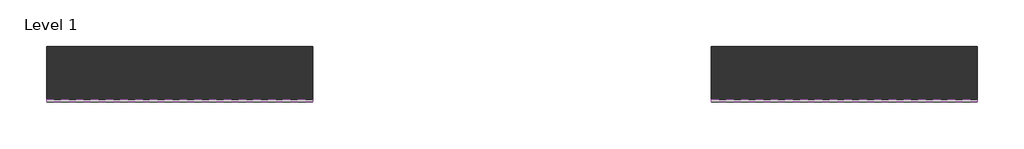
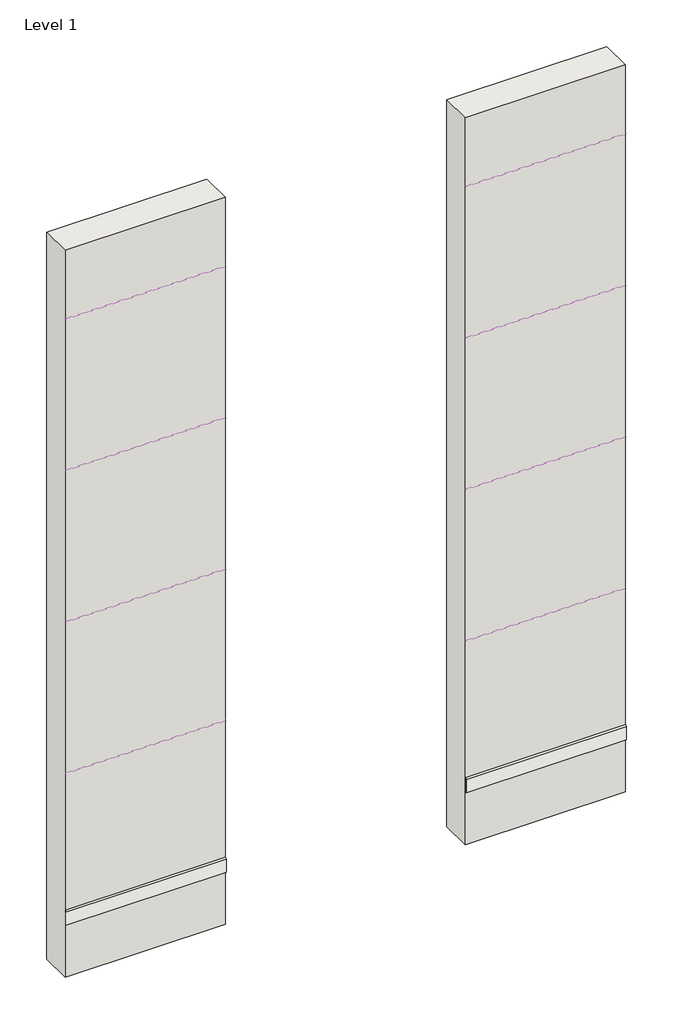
# One storey: 10 coverings, 2 walls.
"""IFC4 building model written with IfcOpenShell, lengths in millimetres."""

from ifc_helpers import new_model, si_unit, point, frame, frame_2d, origin, place, context, project, spatial, polyline, circle_curve, trimmed, segment, composite_curve, outline, extrude, element, save

model = new_model("IFC4")

# Units and contexts
model_context = context("Model", 3, world=origin())
ifc_project = project(units=[si_unit("LENGTHUNIT", "METRE", prefix="MILLI")], contexts=[model_context])

# Site, building, storey
site = spatial("IfcSite", under=ifc_project)
building = spatial("IfcBuilding", under=site)
storey = spatial("IfcBuildingStorey", under=building, Name="Level 1", Elevation=0.0)

# Coverings
placement = place(None, origin())
element("IfcCovering", 1, ObjectType="REVIGRES-CALACATTA CLASSIC-RB-8x59.2-POL-CLASSIC", at=placement, inside=storey, context=model_context, shape_type="SweptSolid", body=[
    extrude(outline(composite_curve([segment(polyline([(-9379.9346721, 3796.7424313), (-9389.7346721, 3796.7424313), (-9389.7346721, 3866.9424313)]), True, "CONTINUOUS"), segment(trimmed(circle_curve(frame_2d((-9379.9346721, 3866.9424313)), 9.8), [point((-9389.7346721, 3866.9424313))], [point((-9379.9346721, 3876.7424313))], False, "CARTESIAN"), True, "CONTINUOUS"), segment(polyline([(-9379.9346721, 3876.7424313), (-9379.9346721, 3796.7424313)]), True, "CONTINUOUS")], self_intersect=False)), frame((8824.7776244, 0.0, 0.0), z_axis=(1.0, 0.0, 0.0), x_axis=(0.0, 1.0, 0.0)), (0.0, 0.0, 1.0), 1000.0),
])
element("IfcCovering", 2, ObjectType="REVIGRES-CALACATTA CLASSIC-RB-8x88.9-POL-CLASSIC", at=placement, inside=storey, context=model_context, shape_type="SweptSolid", body=[
    extrude(outline(composite_curve([segment(polyline([(-9379.9346721, 2796.7424313), (-9390.4346721, 2796.7424313), (-9390.4346721, 2866.2424313)]), True, "CONTINUOUS"), segment(trimmed(circle_curve(frame_2d((-9379.9346721, 2866.2424313)), 10.5), [point((-9390.4346721, 2866.2424313))], [point((-9379.9346721, 2876.7424313))], False, "CARTESIAN"), True, "CONTINUOUS"), segment(polyline([(-9379.9346721, 2876.7424313), (-9379.9346721, 2796.7424313)]), True, "CONTINUOUS")], self_intersect=False)), frame((8824.7776244, 0.0, 0.0), z_axis=(1.0, 0.0, 0.0), x_axis=(0.0, 1.0, 0.0)), (0.0, 0.0, 1.0), 1000.0),
])
element("IfcCovering", 3, ObjectType="REVIGRES-CALACATTA CLASSIC-RB-8x118.6-POL-CLASSIC", at=placement, inside=storey, context=model_context, shape_type="SweptSolid", body=[
    extrude(outline(composite_curve([segment(polyline([(-9379.9346721, 1796.7424313), (-9389.7346721, 1796.7424313), (-9389.7346721, 1866.9424313)]), True, "CONTINUOUS"), segment(trimmed(circle_curve(frame_2d((-9379.9346721, 1866.9424313)), 9.8), [point((-9389.7346721, 1866.9424313))], [point((-9379.9346721, 1876.7424313))], False, "CARTESIAN"), True, "CONTINUOUS"), segment(polyline([(-9379.9346721, 1876.7424313), (-9379.9346721, 1796.7424313)]), True, "CONTINUOUS")], self_intersect=False)), frame((8824.7776244, 0.0, 0.0), z_axis=(1.0, 0.0, 0.0), x_axis=(0.0, 1.0, 0.0)), (0.0, 0.0, 1.0), 1000.0),
])
element("IfcCovering", 4, ObjectType="REVIGRES-CALACATTA CLASSIC-RB-9.5x29.5-POL-CLASSIC", at=placement, inside=storey, context=model_context, shape_type="SweptSolid", body=[
    extrude(outline(composite_curve([segment(polyline([(-9379.9346721, 796.7424313), (-9389.7346721, 796.7424313), (-9389.7346721, 881.9424313)]), True, "CONTINUOUS"), segment(trimmed(circle_curve(frame_2d((-9379.9346721, 881.9424313)), 9.8), [point((-9389.7346721, 881.9424313))], [point((-9379.9346721, 891.7424313))], False, "CARTESIAN"), True, "CONTINUOUS"), segment(polyline([(-9379.9346721, 891.7424313), (-9379.9346721, 796.7424313)]), True, "CONTINUOUS")], self_intersect=False)), frame((8824.7776244, 0.0, 0.0), z_axis=(1.0, 0.0, 0.0), x_axis=(0.0, 1.0, 0.0)), (0.0, 0.0, 1.0), 1000.0),
])
element("IfcCovering", 5, ObjectType="REVIGRES-CALACATTA CLASSIC-RB-8x59.2-MATTRECT-CLASSIC", at=placement, inside=storey, context=model_context, shape_type="SweptSolid", body=[
    extrude(outline(composite_curve([segment(polyline([(-9379.9346721, 3796.7424313), (-9389.7346721, 3796.7424313), (-9389.7346721, 3866.9424313)]), True, "CONTINUOUS"), segment(trimmed(circle_curve(frame_2d((-9379.9346721, 3866.9424313)), 9.8), [point((-9389.7346721, 3866.9424313))], [point((-9379.9346721, 3876.7424313))], False, "CARTESIAN"), True, "CONTINUOUS"), segment(polyline([(-9379.9346721, 3876.7424313), (-9379.9346721, 3796.7424313)]), True, "CONTINUOUS")], self_intersect=False)), frame((11324.7776244, 0.0, 0.0), z_axis=(1.0, 0.0, 0.0), x_axis=(0.0, 1.0, 0.0)), (0.0, 0.0, 1.0), 1000.0),
])
element("IfcCovering", 6, ObjectType="REVIGRES-CALACATTA CLASSIC-RB-8x88.9-MATTRECT-CLASSIC", at=placement, inside=storey, context=model_context, shape_type="SweptSolid", body=[
    extrude(outline(composite_curve([segment(polyline([(-9379.9346721, 2796.7424313), (-9390.4346721, 2796.7424313), (-9390.4346721, 2866.2424313)]), True, "CONTINUOUS"), segment(trimmed(circle_curve(frame_2d((-9379.9346721, 2866.2424313)), 10.5), [point((-9390.4346721, 2866.2424313))], [point((-9379.9346721, 2876.7424313))], False, "CARTESIAN"), True, "CONTINUOUS"), segment(polyline([(-9379.9346721, 2876.7424313), (-9379.9346721, 2796.7424313)]), True, "CONTINUOUS")], self_intersect=False)), frame((11324.7776244, 0.0, 0.0), z_axis=(1.0, 0.0, 0.0), x_axis=(0.0, 1.0, 0.0)), (0.0, 0.0, 1.0), 1000.0),
])
element("IfcCovering", 7, ObjectType="REVIGRES-CALACATTA CLASSIC-RB-8x118.6-MATTRECT-CLASSIC", at=placement, inside=storey, context=model_context, shape_type="SweptSolid", body=[
    extrude(outline(composite_curve([segment(polyline([(-9379.9346721, 1796.7424313), (-9389.7346721, 1796.7424313), (-9389.7346721, 1866.9424313)]), True, "CONTINUOUS"), segment(trimmed(circle_curve(frame_2d((-9379.9346721, 1866.9424313)), 9.8), [point((-9389.7346721, 1866.9424313))], [point((-9379.9346721, 1876.7424313))], False, "CARTESIAN"), True, "CONTINUOUS"), segment(polyline([(-9379.9346721, 1876.7424313), (-9379.9346721, 1796.7424313)]), True, "CONTINUOUS")], self_intersect=False)), frame((11324.7776244, 0.0, 0.0), z_axis=(1.0, 0.0, 0.0), x_axis=(0.0, 1.0, 0.0)), (0.0, 0.0, 1.0), 1000.0),
])
element("IfcCovering", 8, ObjectType="REVIGRES-CALACATTA CLASSIC-RB-9.5x29.5-MATTRECT-CLASSIC", at=placement, inside=storey, context=model_context, shape_type="SweptSolid", body=[
    extrude(outline(composite_curve([segment(polyline([(-9379.9346721, 796.7424313), (-9389.7346721, 796.7424313), (-9389.7346721, 881.9424313)]), True, "CONTINUOUS"), segment(trimmed(circle_curve(frame_2d((-9379.9346721, 881.9424313)), 9.8), [point((-9389.7346721, 881.9424313))], [point((-9379.9346721, 891.7424313))], False, "CARTESIAN"), True, "CONTINUOUS"), segment(polyline([(-9379.9346721, 891.7424313), (-9379.9346721, 796.7424313)]), True, "CONTINUOUS")], self_intersect=False)), frame((11324.7776244, 0.0, 0.0), z_axis=(1.0, 0.0, 0.0), x_axis=(0.0, 1.0, 0.0)), (0.0, 0.0, 1.0), 1000.0),
])
element("IfcCovering", 9, ObjectType="REVIGRES-CALACATTA CLASSIC-RB-8x44.35-POL-CLASSIC", at=placement, inside=storey, context=model_context, shape_type="SweptSolid", body=[
    extrude(outline(composite_curve([segment(polyline([(-9379.9346721, 4796.7424313), (-9390.4346721, 4796.7424313), (-9390.4346721, 4866.2424313)]), True, "CONTINUOUS"), segment(trimmed(circle_curve(frame_2d((-9379.9346721, 4866.2424313)), 10.5), [point((-9390.4346721, 4866.2424313))], [point((-9379.9346721, 4876.7424313))], False, "CARTESIAN"), True, "CONTINUOUS"), segment(polyline([(-9379.9346721, 4876.7424313), (-9379.9346721, 4796.7424313)]), True, "CONTINUOUS")], self_intersect=False)), frame((8824.7776244, 0.0, 0.0), z_axis=(1.0, 0.0, 0.0), x_axis=(0.0, 1.0, 0.0)), (0.0, 0.0, 1.0), 1000.0),
])
element("IfcCovering", 10, ObjectType="REVIGRES-CALACATTA CLASSIC-RB-8x44.35-MATTRECT-CLASSIC", at=placement, inside=storey, context=model_context, shape_type="SweptSolid", body=[
    extrude(outline(composite_curve([segment(polyline([(-9379.9346721, 4796.7424313), (-9390.4346721, 4796.7424313), (-9390.4346721, 4866.2424313)]), True, "CONTINUOUS"), segment(trimmed(circle_curve(frame_2d((-9379.9346721, 4866.2424313)), 10.5), [point((-9390.4346721, 4866.2424313))], [point((-9379.9346721, 4876.7424313))], False, "CARTESIAN"), True, "CONTINUOUS"), segment(polyline([(-9379.9346721, 4876.7424313), (-9379.9346721, 4796.7424313)]), True, "CONTINUOUS")], self_intersect=False)), frame((11324.7776244, 0.0, 0.0), z_axis=(1.0, 0.0, 0.0), x_axis=(0.0, 1.0, 0.0)), (0.0, 0.0, 1.0), 1000.0),
])

# Walls
element("IfcWall", 11, ObjectType="Wall 1", at=placement, inside=storey, context=model_context, shape_type="SweptSolid", body=[
    extrude(outline(polyline([(9824.7776244, -9379.9346721), (8824.7776244, -9379.9346721), (8824.7776244, -9179.9346721), (9824.7776244, -9179.9346721), (9824.7776244, -9379.9346721)])), frame((0.0, 0.0, 446.7424313), z_axis=(0.0, 0.0, 1.0), x_axis=(1.0, 0.0, 0.0)), (0.0, 0.0, 1.0), 4800.0),
])
element("IfcWall", 12, ObjectType="Wall 1", at=placement, inside=storey, context=model_context, shape_type="SweptSolid", body=[
    extrude(outline(polyline([(12324.7776244, -9379.9346721), (11324.7776244, -9379.9346721), (11324.7776244, -9179.9346721), (12324.7776244, -9179.9346721), (12324.7776244, -9379.9346721)])), frame((0.0, 0.0, 446.7424313), z_axis=(0.0, 0.0, 1.0), x_axis=(1.0, 0.0, 0.0)), (0.0, 0.0, 1.0), 4800.0),
])

save(model, "model.ifc")
